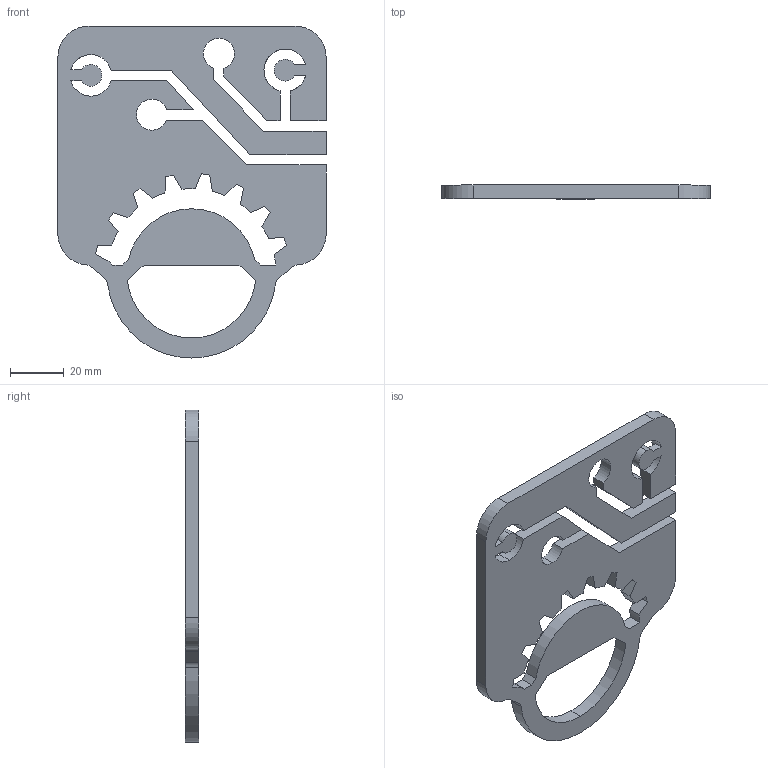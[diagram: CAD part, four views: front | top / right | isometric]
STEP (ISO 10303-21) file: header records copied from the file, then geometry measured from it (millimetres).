
FILE_DESCRIPTION (( 'STEP AP203' ), '1' );
FILE_NAME ('sanatbazar.STEP', '2016-06-11T12:06:49', ( '' ), ( '' ), 'SwSTEP 2.0', 'SolidWorks 2015', '' );
FILE_SCHEMA (( 'CONFIG_CONTROL_DESIGN' ));
Length unit declared in the file: millimetre
Products named in the file (1): sanatbazar
Bounding box: 99.91 x 5 x 123.61 mm (x, y, z)
Volume: 38212.7 mm3; surface area: 21713.2 mm2
Topology: 1 solids, 1 shells, 100 faces, 294 edges, 196 vertices
Faces by surface type: plane 67, cylinder 33
Entity records: 3417 total; most frequent: CARTESIAN_POINT 591, ORIENTED_EDGE 588, DIRECTION 570, EDGE_CURVE 294, VECTOR 220, LINE 220, VERTEX_POINT 196, AXIS2_PLACEMENT_3D 175
